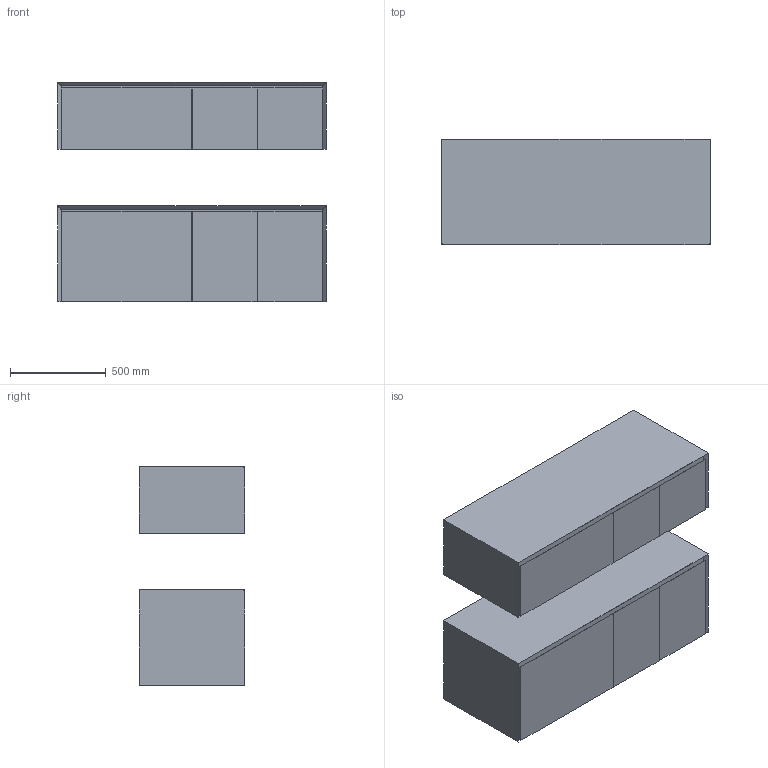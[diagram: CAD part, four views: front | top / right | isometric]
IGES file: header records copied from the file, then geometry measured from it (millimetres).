
Global section: file name: \\Archi-NAS\Comune\X GIOVANNI\MOBILI\EVERMOTION\EVERMOTION_5.igs; native system: Rhinoceros ( Feb 23 2021 ); preprocessor: Trout Lake IGES 012 Feb 23 2021; date: 230607.160245; units: millimetre
Bounding box: 1400 x 550 x 1143.94 mm (x, y, z)
Surface area: 16089602.9 mm2 (no closed solid volume)
Topology: 0 solids, 0 shells, 182 faces, 1088 edges, 1088 vertices
Faces by surface type: bspline 182
